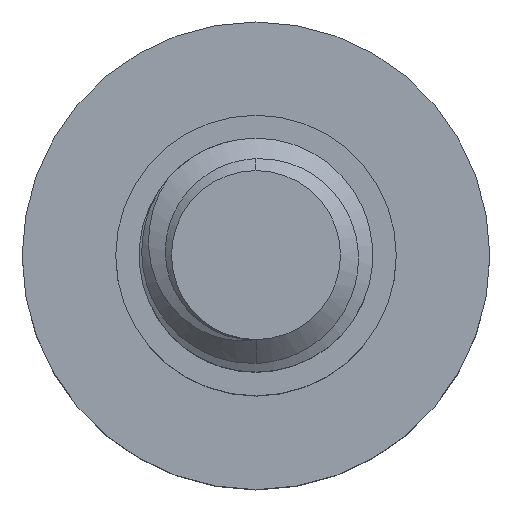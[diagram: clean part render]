
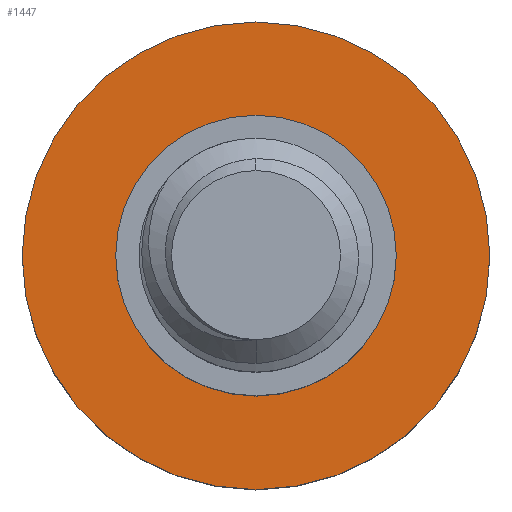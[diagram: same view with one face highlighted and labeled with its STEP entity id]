
A CAD part, top view. The second image highlights one B-rep face of the part: STEP entity #1447.
In plain terms, the highlighted planar face has unit normal (0, 0, 1).
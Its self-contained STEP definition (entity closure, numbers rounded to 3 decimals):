
#52 = DIRECTION ( 'NONE',  ( 0., 0., -1. ) ) ;
#81 = DIRECTION ( 'NONE',  ( 0., 0., -1. ) ) ;
#90 = VERTEX_POINT ( 'NONE', #248 ) ;
#93 = DIRECTION ( 'NONE',  ( 0., 0., -1. ) ) ;
#192 = ORIENTED_EDGE ( 'NONE', *, *, #1618, .T. ) ;
#232 = AXIS2_PLACEMENT_3D ( 'NONE', #1744, #81, #2113 ) ;
#242 = ORIENTED_EDGE ( 'NONE', *, *, #1464, .T. ) ;
#248 = CARTESIAN_POINT ( 'NONE',  ( 5., 0., -3. ) ) ;
#294 = PLANE ( 'NONE',  #2385 ) ;
#530 = VERTEX_POINT ( 'NONE', #818 ) ;
#636 = FACE_OUTER_BOUND ( 'NONE', #1232, .T. ) ;
#815 = VERTEX_POINT ( 'NONE', #2134 ) ;
#818 = CARTESIAN_POINT ( 'NONE',  ( -5., 0., -3. ) ) ;
#839 = AXIS2_PLACEMENT_3D ( 'NONE', #2256, #2058, #1504 ) ;
#934 = EDGE_CURVE ( 'NONE', #530, #90, #2277, .T. ) ;
#1024 = FACE_BOUND ( 'NONE', #1096, .T. ) ;
#1036 = CIRCLE ( 'NONE', #1926, 5. ) ;
#1071 = CARTESIAN_POINT ( 'NONE',  ( 0., 0., -3. ) ) ;
#1096 = EDGE_LOOP ( 'NONE', ( #242, #192 ) ) ;
#1232 = EDGE_LOOP ( 'NONE', ( #2183, #1875 ) ) ;
#1355 = DIRECTION ( 'NONE',  ( -1., 0., 0. ) ) ;
#1387 = CARTESIAN_POINT ( 'NONE',  ( 3., 0., -3. ) ) ;
#1396 = CARTESIAN_POINT ( 'NONE',  ( 0., 0., -3. ) ) ;
#1427 = DIRECTION ( 'NONE',  ( -1., 0., 0. ) ) ;
#1440 = DIRECTION ( 'NONE',  ( 0., 0., -1. ) ) ;
#1447 = ADVANCED_FACE ( 'NONE', ( #1024, #636 ), #294, .F. ) ;
#1464 = EDGE_CURVE ( 'NONE', #815, #1953, #2310, .T. ) ;
#1504 = DIRECTION ( 'NONE',  ( -1., 0., 0. ) ) ;
#1548 = DIRECTION ( 'NONE',  ( -1., 0., 0. ) ) ;
#1618 = EDGE_CURVE ( 'NONE', #1953, #815, #2160, .T. ) ;
#1620 = AXIS2_PLACEMENT_3D ( 'NONE', #1071, #1440, #1427 ) ;
#1744 = CARTESIAN_POINT ( 'NONE',  ( 0., 0., -3. ) ) ;
#1875 = ORIENTED_EDGE ( 'NONE', *, *, #934, .F. ) ;
#1926 = AXIS2_PLACEMENT_3D ( 'NONE', #2262, #52, #1548 ) ;
#1953 = VERTEX_POINT ( 'NONE', #1387 ) ;
#1967 = EDGE_CURVE ( 'NONE', #90, #530, #1036, .T. ) ;
#2058 = DIRECTION ( 'NONE',  ( 0., 0., -1. ) ) ;
#2113 = DIRECTION ( 'NONE',  ( -1., 0., 0. ) ) ;
#2134 = CARTESIAN_POINT ( 'NONE',  ( -3., 0., -3. ) ) ;
#2160 = CIRCLE ( 'NONE', #839, 3. ) ;
#2183 = ORIENTED_EDGE ( 'NONE', *, *, #1967, .F. ) ;
#2256 = CARTESIAN_POINT ( 'NONE',  ( 0., 0., -3. ) ) ;
#2262 = CARTESIAN_POINT ( 'NONE',  ( 0., 0., -3. ) ) ;
#2277 = CIRCLE ( 'NONE', #1620, 5. ) ;
#2310 = CIRCLE ( 'NONE', #232, 3. ) ;
#2385 = AXIS2_PLACEMENT_3D ( 'NONE', #1396, #93, #1355 ) ;
